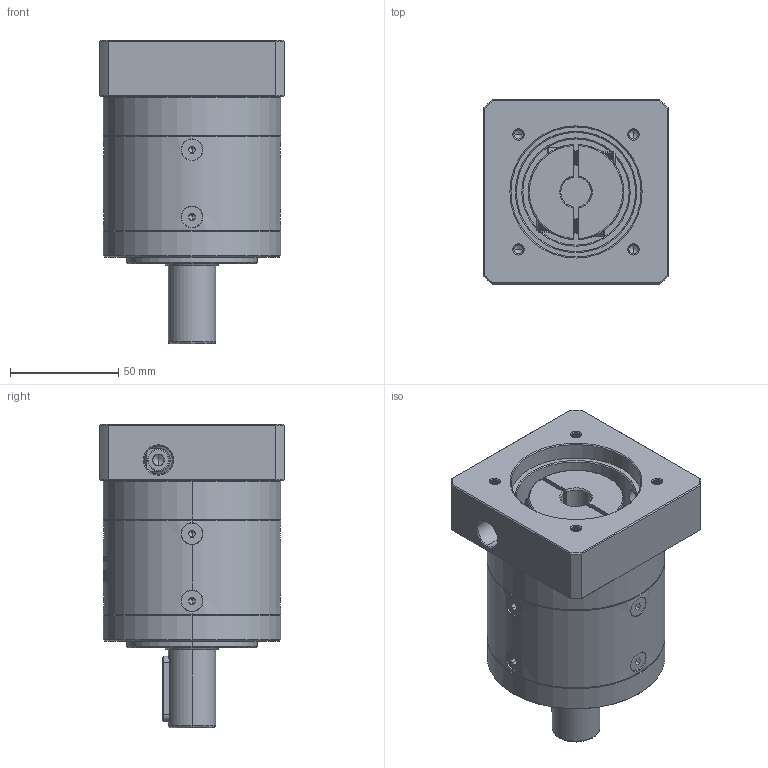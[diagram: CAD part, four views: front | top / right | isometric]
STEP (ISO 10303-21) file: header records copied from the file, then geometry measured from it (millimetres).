
FILE_DESCRIPTION (( 'STEP AP214' ), '1' );
FILE_NAME ('ZE80-D22-L1-14-60-75-M5.step', '2022-05-08T05:53:01', ( '' ), ( 'Microsoft' ), 'SwSTEP 2.0', 'SolidWorks 2016', '' );
FILE_SCHEMA (( 'AUTOMOTIVE_DESIGN' ));
Length unit declared in the file: millimetre
Products named in the file (1): ZE80-D22-L1-14-60-75-M5
Bounding box: 85 x 85 x 140 mm (x, y, z)
Volume: 532480.5 mm3; surface area: 84901.9 mm2
Topology: 13 solids, 13 shells, 2072 faces, 5401 edges, 3418 vertices
Faces by surface type: plane 891, cylinder 500, cone 332, bspline 332, torus 17
Entity records: 118819 total; most frequent: CARTESIAN_POINT 49527, ORIENTED_EDGE 10726, DIRECTION 8260, EDGE_CURVE 5363, VERTEX_POINT 3418, VECTOR 2868, LINE 2868, AXIS2_PLACEMENT_3D 2696
